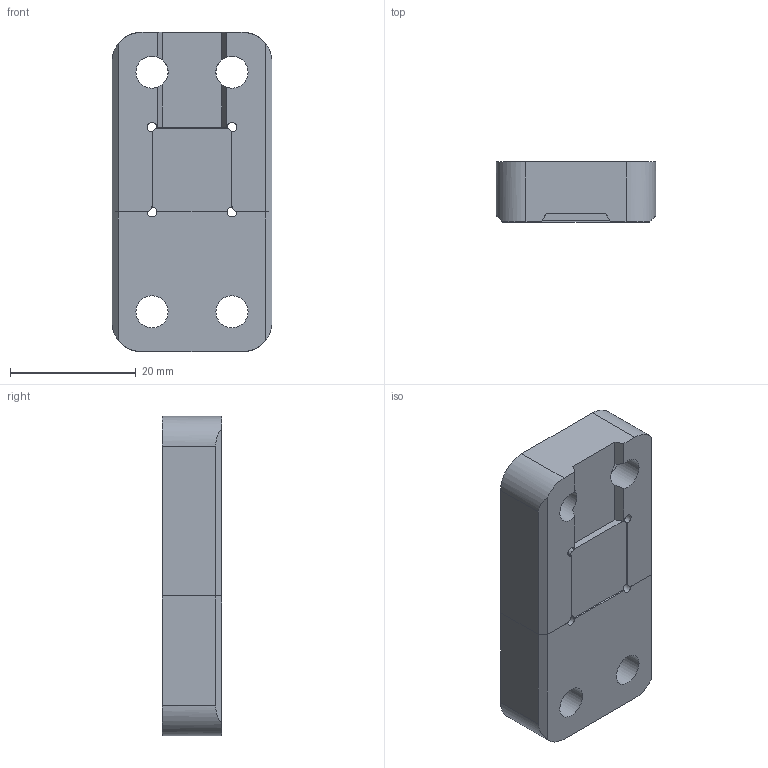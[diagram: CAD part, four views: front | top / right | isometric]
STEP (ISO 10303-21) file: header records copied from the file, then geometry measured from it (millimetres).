
FILE_DESCRIPTION(/* description */ ('STEP AP214'),/* implementation_level */ '2;1');
FILE_NAME(/* name */ 'BGS1000',/* time_stamp */ '2024-12-19T08:04:42+01:00',/* author */ ('License CC BY-ND 4.0'),/* organization */ ('CADENAS'),/* preprocessor_version */ 'ST-DEVELOPER v19.3',/* originating_system */ 'PARTsolutions',/* authorisation */ ' ');
FILE_SCHEMA (('AUTOMOTIVE_DESIGN {1 0 10303 214 3 1 1}'));
Length unit declared in the file: millimetre
Products named in the file (3): BGS1000; BGS1000M; BGS1000F
Assembly tree (2 placements, depth 2):
  BGS1000
    BGS1000M
    BGS1000F
Bounding box: 25.4 x 9.53 x 50.8 mm (x, y, z)
Volume: 9943.3 mm3; surface area: 5598 mm2
Topology: 2 solids, 2 shells, 56 faces, 150 edges, 100 vertices
Faces by surface type: plane 36, cylinder 20
Full cylindrical faces by diameter (mm): 5.105 x4, 9.525 x4
Entity records: 1800 total; most frequent: DIRECTION 310, CARTESIAN_POINT 297, ORIENTED_EDGE 280, EDGE_CURVE 140, AXIS2_PLACEMENT_3D 111, VERTEX_POINT 98, LINE 88, VECTOR 88
